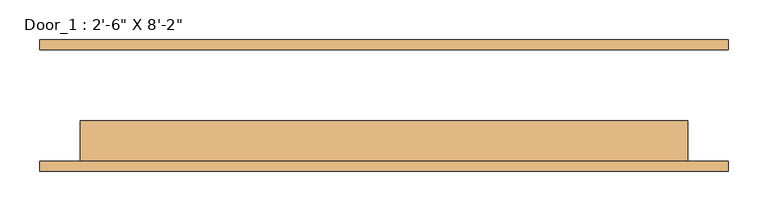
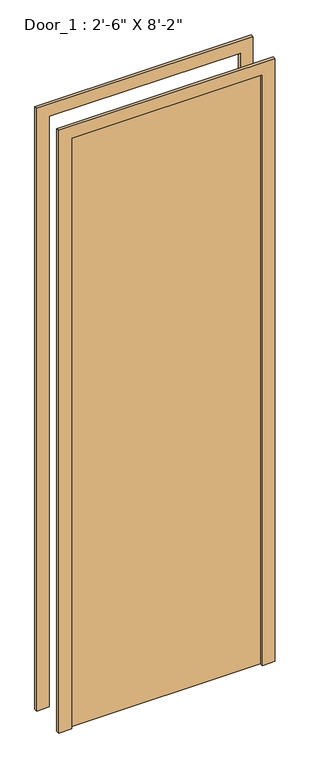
"""IFC4 building model written with IfcOpenShell, lengths in millimetres: door geometry."""

from ifc_helpers import new_model, si_unit, frame, origin, origin_with_axes, place, context, project, spatial, polyline, outline, extrude, source, transform, mapped, element, save


def door_7242d4bd(model_context):
    return source(origin(), model_context, "Body", "SweptSolid", [
        extrude(outline(polyline([(2540.0, -431.8), (0.0, -431.8), (0.0, -381.0), (2489.2, -381.0), (2489.2, 381.0), (0.0, 381.0), (0.0, 431.8), (2540.0, 431.8), (2540.0, -431.8)])), frame((0.0, -82.55, 0.0), z_axis=(0.0, 1.0, 0.0), x_axis=(0.0, 0.0, 1.0)), (0.0, 0.0, 1.0), 12.7),
        extrude(outline(polyline([(2540.0, 431.8), (2540.0, -431.8), (0.0, -431.8), (0.0, -381.0), (2489.2, -381.0), (2489.2, 381.0), (0.0, 381.0), (0.0, 431.8), (2540.0, 431.8)])), frame((0.0, 69.85, 0.0), z_axis=(0.0, 1.0, 0.0), x_axis=(0.0, 0.0, 1.0)), (0.0, 0.0, 1.0), 12.7),
        extrude(outline(polyline([(381.0, -19.05), (381.0, -69.85), (-381.0, -69.85), (-381.0, -19.05), (381.0, -19.05)])), origin_with_axes(), (0.0, 0.0, 1.0), 2489.2),
    ])


if __name__ == "__main__":
    model = new_model("IFC4")
    model_context = context("Model", 3, world=origin())
    ifc_project = project(units=[si_unit("LENGTHUNIT", "METRE", prefix="MILLI")], contexts=[model_context])
    site = spatial("IfcSite", under=ifc_project)
    building = spatial("IfcBuilding", under=site)
    placement = place(None, origin())
    door_shape = door_7242d4bd(model_context)
    element("IfcDoor", 1, ObjectType="Door_1 : 2'-6\" X 8'-2\"", at=placement, inside=building, context=model_context, shape_type="MappedRepresentation", body=[
        mapped(door_shape, transform((0.0, 0.0, 0.0), x_axis=(1.0, 0.0, 0.0), y_axis=(0.0, 1.0, 0.0), z_axis=(0.0, 0.0, 1.0))),
    ])
    save(model, "model.ifc")
